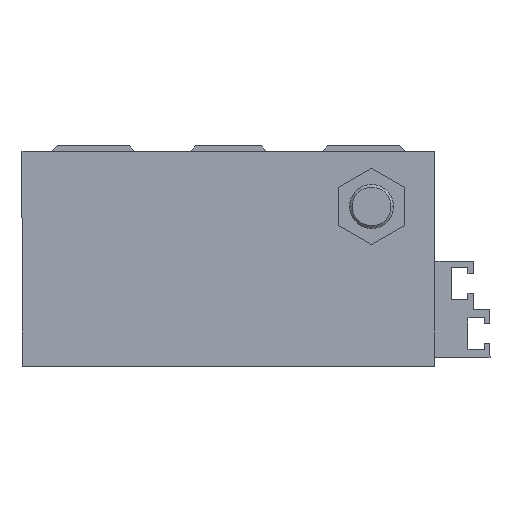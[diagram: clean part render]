
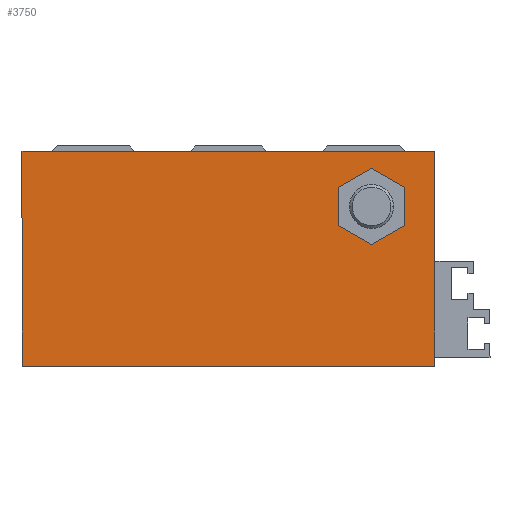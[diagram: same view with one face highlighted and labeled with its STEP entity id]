
A CAD part, front view. The second image highlights one B-rep face of the part: STEP entity #3750.
In plain terms, the highlighted planar face has unit normal (0, -1, 0).
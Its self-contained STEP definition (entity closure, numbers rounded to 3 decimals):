
#2055=CARTESIAN_POINT('',(32.,-23.5,4.536));
#2056=VERTEX_POINT('',#2055);
#2063=CARTESIAN_POINT('',(32.0,-23.5,11.464));
#2064=VERTEX_POINT('',#2063);
#2065=CARTESIAN_POINT('',(32.0,-23.5,11.464));
#2066=DIRECTION('',(0.0,0.0,-1.0));
#2067=VECTOR('',#2066,6.928);
#2068=LINE('',#2065,#2067);
#2069=EDGE_CURVE('',#2064,#2056,#2068,.T.);
#2086=CARTESIAN_POINT('',(26.,-23.5,1.072));
#2087=VERTEX_POINT('',#2086);
#2094=CARTESIAN_POINT('',(32.,-23.5,4.536));
#2095=DIRECTION('',(-0.866,0.0,-0.5));
#2096=VECTOR('',#2095,6.928);
#2097=LINE('',#2094,#2096);
#2098=EDGE_CURVE('',#2056,#2087,#2097,.T.);
#2110=CARTESIAN_POINT('',(20.,-23.5,4.536));
#2111=VERTEX_POINT('',#2110);
#2118=CARTESIAN_POINT('',(26.,-23.5,1.072));
#2119=DIRECTION('',(-0.866,0.0,0.5));
#2120=VECTOR('',#2119,6.928);
#2121=LINE('',#2118,#2120);
#2122=EDGE_CURVE('',#2087,#2111,#2121,.T.);
#2134=CARTESIAN_POINT('',(20.,-23.5,11.464));
#2135=VERTEX_POINT('',#2134);
#2142=CARTESIAN_POINT('',(20.,-23.5,4.536));
#2143=DIRECTION('',(0.0,0.0,1.0));
#2144=VECTOR('',#2143,6.928);
#2145=LINE('',#2142,#2144);
#2146=EDGE_CURVE('',#2111,#2135,#2145,.T.);
#2158=CARTESIAN_POINT('',(26.,-23.5,14.928));
#2159=VERTEX_POINT('',#2158);
#2166=CARTESIAN_POINT('',(20.,-23.5,11.464));
#2167=DIRECTION('',(0.866,0.0,0.5));
#2168=VECTOR('',#2167,6.928);
#2169=LINE('',#2166,#2168);
#2170=EDGE_CURVE('',#2135,#2159,#2169,.T.);
#2183=CARTESIAN_POINT('',(26.,-23.5,14.928));
#2184=DIRECTION('',(0.866,0.0,-0.5));
#2185=VECTOR('',#2184,6.928);
#2186=LINE('',#2183,#2185);
#2187=EDGE_CURVE('',#2159,#2064,#2186,.T.);
#2261=CARTESIAN_POINT('',(-37.5,-23.5,-21.));
#2262=VERTEX_POINT('',#2261);
#2263=CARTESIAN_POINT('',(-37.5,-23.5,18.));
#2264=VERTEX_POINT('',#2263);
#2265=CARTESIAN_POINT('',(-37.5,-23.5,-21.));
#2266=DIRECTION('',(0.0,0.0,1.0));
#2267=VECTOR('',#2266,39.);
#2268=LINE('',#2265,#2267);
#2269=EDGE_CURVE('',#2262,#2264,#2268,.T.);
#2540=CARTESIAN_POINT('',(37.5,-23.5,18.));
#2541=VERTEX_POINT('',#2540);
#2542=CARTESIAN_POINT('',(37.5,-23.5,-21.));
#2543=VERTEX_POINT('',#2542);
#2544=CARTESIAN_POINT('',(37.5,-23.5,18.));
#2545=DIRECTION('',(0.0,0.0,-1.0));
#2546=VECTOR('',#2545,39.);
#2547=LINE('',#2544,#2546);
#2548=EDGE_CURVE('',#2541,#2543,#2547,.T.);
#3500=CARTESIAN_POINT('',(37.5,-23.5,-21.));
#3501=DIRECTION('',(-1.0,0.0,0.0));
#3502=VECTOR('',#3501,75.0);
#3503=LINE('',#3500,#3502);
#3504=EDGE_CURVE('',#2543,#2262,#3503,.T.);
#3711=CARTESIAN_POINT('',(-37.5,-23.5,18.));
#3712=DIRECTION('',(1.0,0.0,0.0));
#3713=VECTOR('',#3712,75.0);
#3714=LINE('',#3711,#3713);
#3715=EDGE_CURVE('',#2264,#2541,#3714,.T.);
#3731=CARTESIAN_POINT('',(0.0,-23.5,-1.5));
#3732=DIRECTION('',(0.0,1.0,0.0));
#3733=DIRECTION('',(0.0,0.0,1.0));
#3734=AXIS2_PLACEMENT_3D('',#3731,#3732,#3733);
#3735=PLANE('',#3734);
#3736=ORIENTED_EDGE('',*,*,#2269,.F.);
#3737=ORIENTED_EDGE('',*,*,#3504,.F.);
#3738=ORIENTED_EDGE('',*,*,#2548,.F.);
#3739=ORIENTED_EDGE('',*,*,#3715,.F.);
#3740=EDGE_LOOP('',(#3736,#3737,#3738,#3739));
#3741=FACE_OUTER_BOUND('',#3740,.T.);
#3742=ORIENTED_EDGE('',*,*,#2069,.T.);
#3743=ORIENTED_EDGE('',*,*,#2098,.T.);
#3744=ORIENTED_EDGE('',*,*,#2122,.T.);
#3745=ORIENTED_EDGE('',*,*,#2146,.T.);
#3746=ORIENTED_EDGE('',*,*,#2170,.T.);
#3747=ORIENTED_EDGE('',*,*,#2187,.T.);
#3748=EDGE_LOOP('',(#3742,#3743,#3744,#3745,#3746,#3747));
#3749=FACE_BOUND('',#3748,.T.);
#3750=ADVANCED_FACE('',(#3741,#3749),#3735,.F.);
